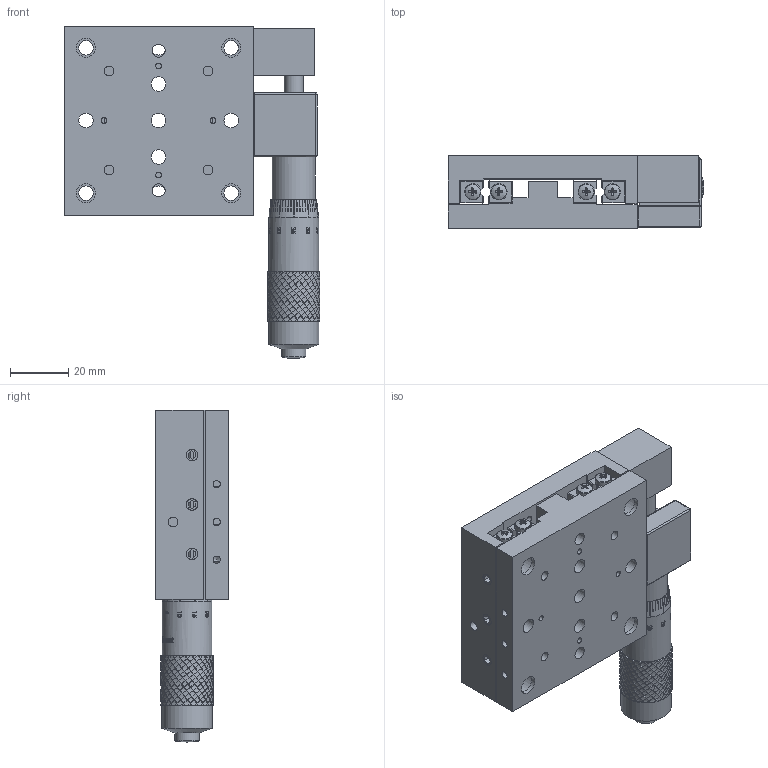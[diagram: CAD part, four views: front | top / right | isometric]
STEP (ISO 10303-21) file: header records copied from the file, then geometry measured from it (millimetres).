
FILE_DESCRIPTION (( 'STEP AP203' ), '1' );
FILE_NAME ('TSS65X-1V.step', '2017-01-10T09:22:06', ( '¦K¬P' ), ( '' ), 'SwSTEP 2.0', 'SolidWorks 2012', '' );
FILE_SCHEMA (( 'CONFIG_CONTROL_DESIGN' ));
Products named in the file (1): TSS65X-1V
Bounding box: 88 x 25 x 114.17 mm (x, y, z)
Surface area: 46012 mm2 (no closed solid volume)
Topology: 0 solids, 77 shells, 1628 faces, 6544 edges, 4746 vertices
Faces by surface type: bspline 692, cylinder 576, plane 328, sphere 16, cone 8, torus 8
Full cylindrical faces by diameter (mm): 1.5 x1, 2 x8, 2.5 x10, 3.3 x9, 4.5 x2, 5 x18, 5.4 x2, 5.6 x8, 6 x4, 6.5 x5, 8 x1, 8.4 x1, 10 x2, 11 x4, 14.8 x1, 15.5 x1, 17.15 x1, 17.25 x1
Entity records: 145992 total; most frequent: CARTESIAN_POINT 105611, ORIENTED_EDGE 10297, EDGE_CURVE 6426, DIRECTION 4778, VERTEX_POINT 4730, B_SPLINE_CURVE_WITH_KNOTS 2283, EDGE_LOOP 1961, AXIS2_PLACEMENT_3D 1748
